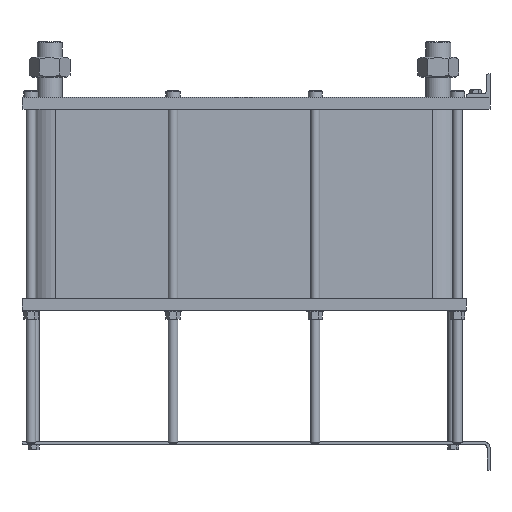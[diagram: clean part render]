
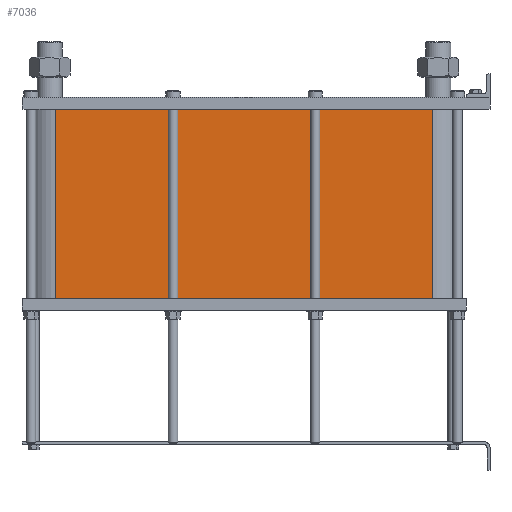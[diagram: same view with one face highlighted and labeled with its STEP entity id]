
A CAD part, left-side view. The second image highlights one B-rep face of the part: STEP entity #7036.
In plain terms, the highlighted planar face has unit normal (-1, 0, 0).
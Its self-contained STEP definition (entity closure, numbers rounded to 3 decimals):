
#999=LINE('',#15640,#1553);
#1031=LINE('',#15723,#1585);
#1032=LINE('',#15726,#1586);
#1033=LINE('',#15727,#1587);
#1553=VECTOR('',#9658,10.);
#1585=VECTOR('',#9736,10.);
#1586=VECTOR('',#9741,10.);
#1587=VECTOR('',#9742,10.);
#2117=FACE_OUTER_BOUND('',#2671,.T.);
#2671=EDGE_LOOP('',(#6246,#6247,#6248,#6249));
#3527=VERTEX_POINT('',#15634);
#3529=VERTEX_POINT('',#15638);
#3556=VERTEX_POINT('',#15720);
#3557=VERTEX_POINT('',#15722);
#4425=EDGE_CURVE('',#3529,#3527,#999,.T.);
#4466=EDGE_CURVE('',#3557,#3556,#1031,.T.);
#4468=EDGE_CURVE('',#3527,#3556,#1032,.T.);
#4469=EDGE_CURVE('',#3557,#3529,#1033,.T.);
#6246=ORIENTED_EDGE('',*,*,#4468,.F.);
#6247=ORIENTED_EDGE('',*,*,#4425,.F.);
#6248=ORIENTED_EDGE('',*,*,#4469,.F.);
#6249=ORIENTED_EDGE('',*,*,#4466,.T.);
#6608=PLANE('',#7812);
#7036=ADVANCED_FACE('',(#2117),#6608,.T.);
#7812=AXIS2_PLACEMENT_3D('',#15725,#9739,#9740);
#9658=DIRECTION('',(0.,0.,-1.));
#9736=DIRECTION('',(0.,0.,-1.));
#9739=DIRECTION('center_axis',(-1.,0.,0.));
#9740=DIRECTION('ref_axis',(0.,1.,0.));
#9741=DIRECTION('',(0.,1.,0.));
#9742=DIRECTION('',(0.,-1.,0.));
#15634=CARTESIAN_POINT('',(-72.,97.5,-319.3));
#15638=CARTESIAN_POINT('',(-72.,97.5,0.));
#15640=CARTESIAN_POINT('',(-72.,97.5,0.));
#15720=CARTESIAN_POINT('',(-72.,733.5,-319.3));
#15722=CARTESIAN_POINT('',(-72.,733.5,0.));
#15723=CARTESIAN_POINT('',(-72.,733.5,0.));
#15725=CARTESIAN_POINT('Origin',(-72.,97.5,0.));
#15726=CARTESIAN_POINT('',(-72.,256.5,-319.3));
#15727=CARTESIAN_POINT('',(-72.,733.5,0.));
